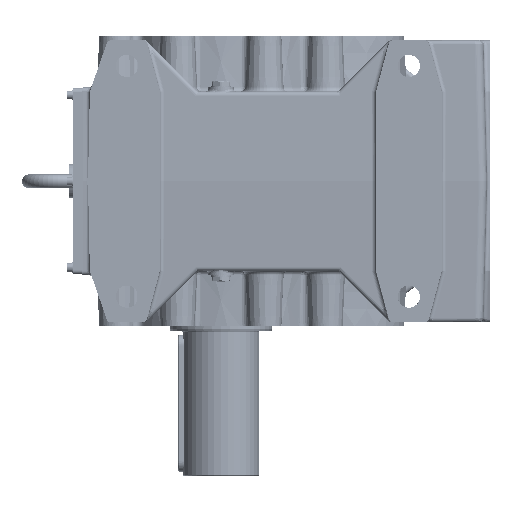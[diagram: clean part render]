
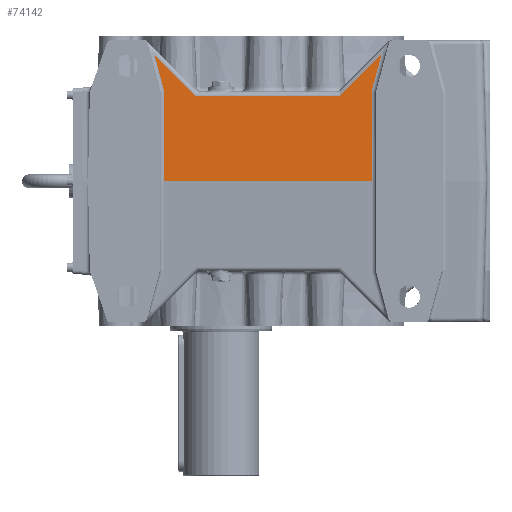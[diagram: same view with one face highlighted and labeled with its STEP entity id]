
A CAD part, left-side view. The second image highlights one B-rep face of the part: STEP entity #74142.
In plain terms, the highlighted planar face has unit normal (-1, 0, 0.026).
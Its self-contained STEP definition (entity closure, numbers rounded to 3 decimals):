
#49647=CARTESIAN_POINT('',(-192.128,29.571,100.131));
#49648=VERTEX_POINT('',#49647);
#49656=CARTESIAN_POINT('',(-192.128,-139.571,100.131));
#49657=VERTEX_POINT('',#49656);
#49658=CARTESIAN_POINT('',(-192.128,29.571,100.131));
#49659=DIRECTION('',(0.0,-1.0,0.0));
#49660=VECTOR('',#49659,169.142);
#49661=LINE('',#49658,#49660);
#49662=EDGE_CURVE('',#49648,#49657,#49661,.T.);
#55806=CARTESIAN_POINT('',(-191.986,-176.5,105.524));
#55807=VERTEX_POINT('',#55806);
#55862=CARTESIAN_POINT('',(-190.86,-187.967,148.527));
#55863=VERTEX_POINT('',#55862);
#55871=CARTESIAN_POINT('',(-190.86,-187.967,148.527));
#55872=DIRECTION('',(-0.025,0.258,-0.966));
#55873=VECTOR('',#55872,44.52);
#55874=LINE('',#55871,#55873);
#55875=EDGE_CURVE('',#55863,#55807,#55874,.T.);
#56204=CARTESIAN_POINT('',(-194.75,66.5,0.0));
#56205=VERTEX_POINT('',#56204);
#56289=CARTESIAN_POINT('',(-191.986,66.5,105.524));
#56290=VERTEX_POINT('',#56289);
#56369=CARTESIAN_POINT('',(-190.86,77.967,148.527));
#56370=VERTEX_POINT('',#56369);
#56371=CARTESIAN_POINT('',(-191.986,66.5,105.524));
#56372=DIRECTION('',(0.025,0.258,0.966));
#56373=VECTOR('',#56372,44.52);
#56374=LINE('',#56371,#56373);
#56375=EDGE_CURVE('',#56290,#56370,#56374,.T.);
#57496=CARTESIAN_POINT('',(-194.75,66.5,0.));
#57497=DIRECTION('',(0.026,0.0,1.));
#57498=VECTOR('',#57497,105.561);
#57499=LINE('',#57496,#57498);
#57500=EDGE_CURVE('',#56205,#56290,#57499,.T.);
#58247=CARTESIAN_POINT('',(-194.75,-176.5,0.0));
#58248=VERTEX_POINT('',#58247);
#58272=CARTESIAN_POINT('',(-191.986,-176.5,105.524));
#58273=DIRECTION('',(-0.026,0.0,-1.));
#58274=VECTOR('',#58273,105.561);
#58275=LINE('',#58272,#58274);
#58276=EDGE_CURVE('',#55807,#58248,#58275,.T.);
#60494=CARTESIAN_POINT('',(-192.128,-139.571,100.131));
#60495=DIRECTION('',(0.019,-0.707,0.707));
#60496=VECTOR('',#60495,68.455);
#60497=LINE('',#60494,#60496);
#60498=EDGE_CURVE('',#49657,#55863,#60497,.T.);
#60640=CARTESIAN_POINT('',(-190.86,77.967,148.527));
#60641=DIRECTION('',(-0.019,-0.707,-0.707));
#60642=VECTOR('',#60641,68.455);
#60643=LINE('',#60640,#60642);
#60644=EDGE_CURVE('',#56370,#49648,#60643,.T.);
#74122=CARTESIAN_POINT('',(-194.749,-307.0,0.036));
#74123=DIRECTION('',(-1.,0.,0.026));
#74124=DIRECTION('',(0.026,0.,1.));
#74125=AXIS2_PLACEMENT_3D('',#74122,#74123,#74124);
#74126=PLANE('',#74125);
#74127=ORIENTED_EDGE('',*,*,#57500,.F.);
#74128=CARTESIAN_POINT('',(-194.75,66.5,0.0));
#74129=DIRECTION('',(0.0,-1.0,0.0));
#74130=VECTOR('',#74129,243.0);
#74131=LINE('',#74128,#74130);
#74132=EDGE_CURVE('',#56205,#58248,#74131,.T.);
#74133=ORIENTED_EDGE('',*,*,#74132,.T.);
#74134=ORIENTED_EDGE('',*,*,#58276,.F.);
#74135=ORIENTED_EDGE('',*,*,#55875,.F.);
#74136=ORIENTED_EDGE('',*,*,#60498,.F.);
#74137=ORIENTED_EDGE('',*,*,#49662,.F.);
#74138=ORIENTED_EDGE('',*,*,#60644,.F.);
#74139=ORIENTED_EDGE('',*,*,#56375,.F.);
#74140=EDGE_LOOP('',(#74127,#74133,#74134,#74135,#74136,#74137,#74138,#74139));
#74141=FACE_OUTER_BOUND('',#74140,.T.);
#74142=ADVANCED_FACE('',(#74141),#74126,.T.);
